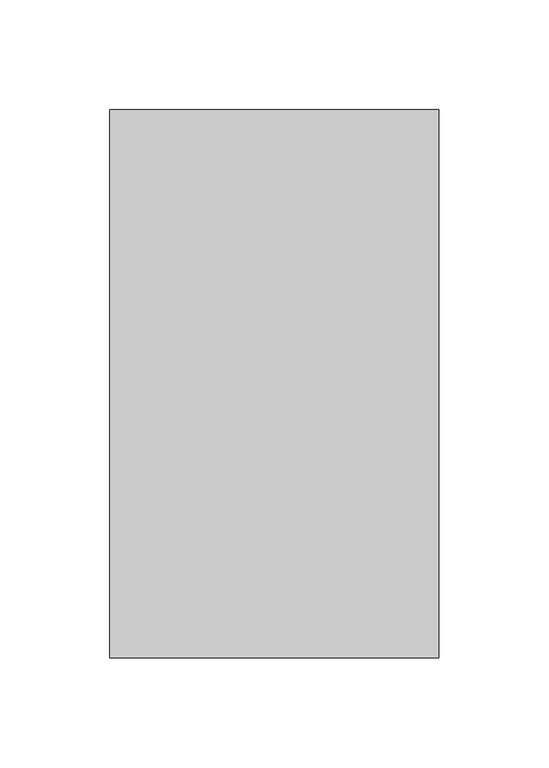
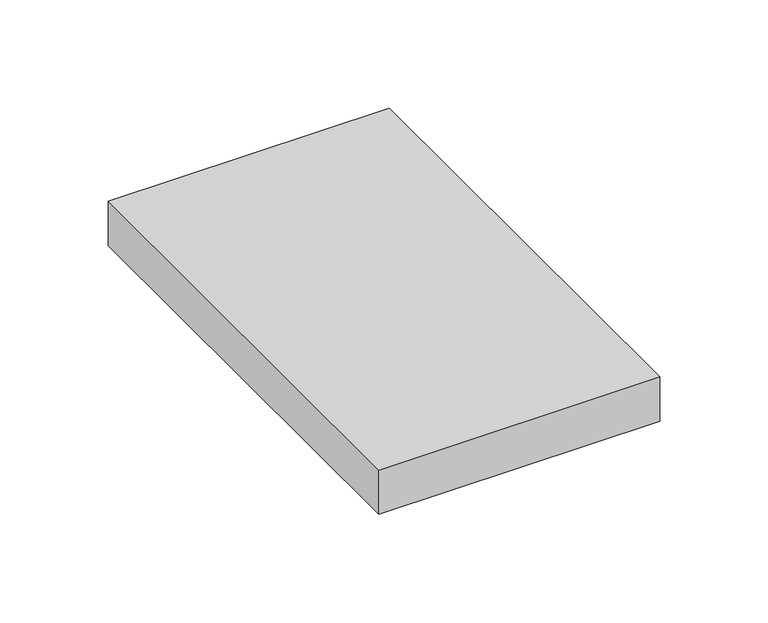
"""IFC4 building model written with IfcOpenShell, lengths in millimetres: proxy geometry, M_Conector de duto retangular - Ar de exaustão - Equipamento mecânico : Padrão."""

from ifc_helpers import new_model, si_unit, origin, origin_with_axes, place, context, project, spatial, polyline, outline, extrude, source, transform, mapped, element, save


def mechanical_equipment_61f77ee9(model_context):
    return source(origin(), model_context, "Body", "SweptSolid", [
        extrude(outline(polyline([(75.0, -125.0), (-75.0, -125.0), (-75.0, 125.0), (75.0, 125.0), (75.0, -125.0)])), origin_with_axes(), (0.0, 0.0, 1.0), 25.0),
    ])


if __name__ == "__main__":
    model = new_model("IFC4")
    model_context = context("Model", 3, world=origin())
    ifc_project = project(units=[si_unit("LENGTHUNIT", "METRE", prefix="MILLI")], contexts=[model_context])
    site = spatial("IfcSite", under=ifc_project)
    building = spatial("IfcBuilding", under=site)
    placement = place(None, origin())
    mechanical_equipment_shape = mechanical_equipment_61f77ee9(model_context)
    element("IfcBuildingElementProxy", 1, Name="M_Conector de duto retangular - Ar de exaustão - Equipamento mecânico : Padrão", ObjectType="M_Conector de duto retangular - Ar de exaustão - Equipamento mecânico : Padrão", at=placement, inside=building, context=model_context, shape_type="MappedRepresentation", body=[
        mapped(mechanical_equipment_shape, transform((0.0, 0.0, 0.0), x_axis=(1.0, 0.0, 0.0), y_axis=(0.0, 1.0, 0.0), z_axis=(0.0, 0.0, 1.0))),
    ])
    save(model, "model.ifc")
